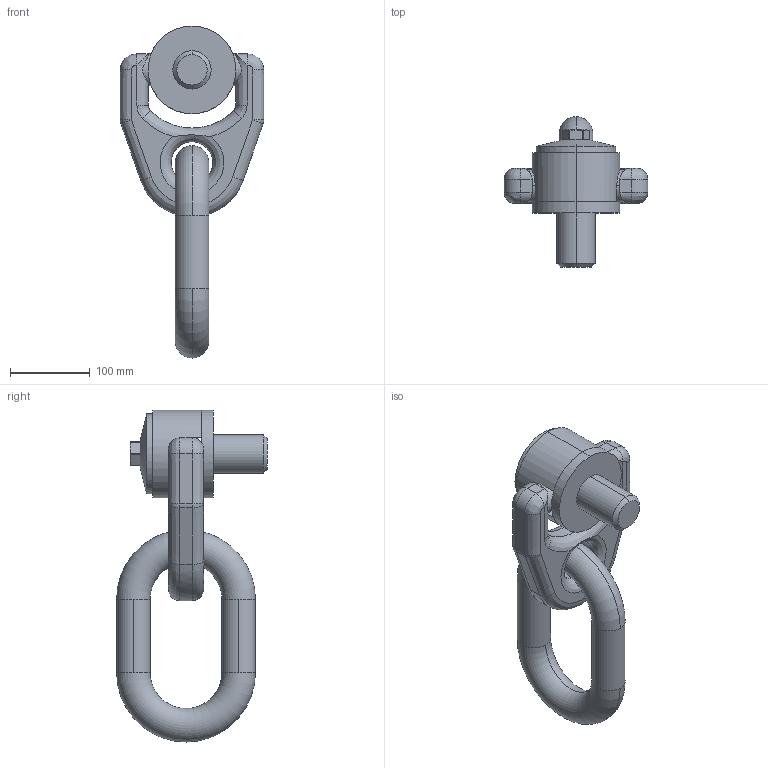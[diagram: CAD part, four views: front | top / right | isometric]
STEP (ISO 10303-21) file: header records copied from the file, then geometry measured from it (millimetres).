
FILE_DESCRIPTION (( 'STEP AP203' ), '1' );
FILE_NAME ('63150.W0048.step', '2013-12-13T11:53:45', ( 'User' ), ( '' ), 'SwSTEP 2.0', 'SolidWorks 2009', '' );
FILE_SCHEMA (( 'CONFIG_CONTROL_DESIGN' ));
Length unit declared in the file: millimetre
Products named in the file (4): Part1_63150.W0048; 63150.W0048; Part2E; Part3_63150.W0048
Assembly tree (3 placements, depth 2):
  63150.W0048
    Part2E
    Part1_63150.W0048
    Part3_63150.W0048
Bounding box: 180 x 189 x 416 mm (x, y, z)
Volume: 2436884.3 mm3; surface area: 226418.4 mm2
Topology: 3 solids, 3 shells, 127 faces, 310 edges, 182 vertices
Faces by surface type: plane 42, cylinder 37, bspline 30, cone 10, sphere 4, torus 4
Entity records: 7568 total; most frequent: CARTESIAN_POINT 4415, ORIENTED_EDGE 612, DIRECTION 538, EDGE_CURVE 306, AXIS2_PLACEMENT_3D 221, VERTEX_POINT 182, EDGE_LOOP 130, ADVANCED_FACE 127
